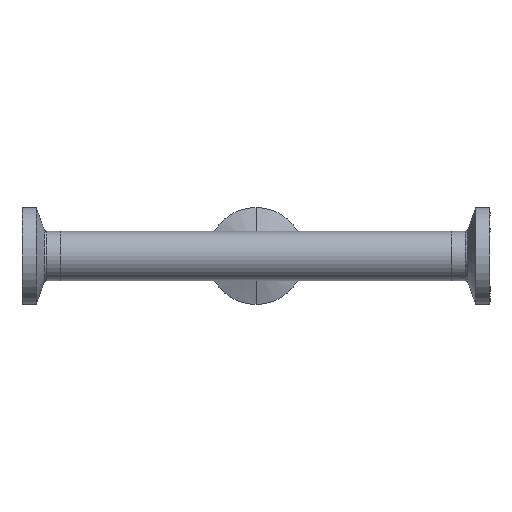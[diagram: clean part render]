
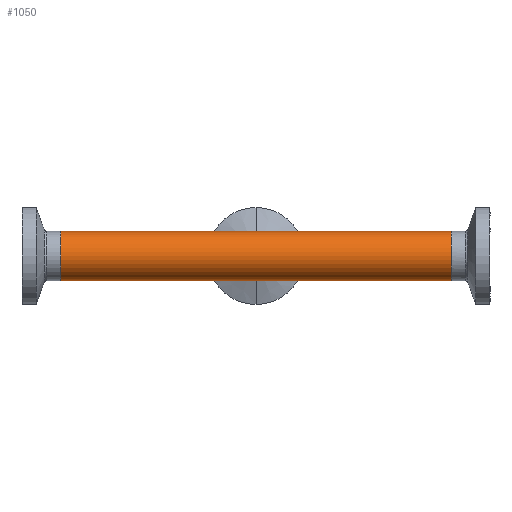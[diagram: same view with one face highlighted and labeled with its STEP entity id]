
A CAD part, front view. The second image highlights one B-rep face of the part: STEP entity #1050.
In plain terms, the highlighted cylindrical face has radius 6.35 mm (diameter 12.7 mm), a partial arc.
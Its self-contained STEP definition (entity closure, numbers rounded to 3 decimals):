
#63 = DIRECTION ( 'NONE',  ( 0., 0., 1. ) ) ;
#70 = DIRECTION ( 'NONE',  ( 0., 0., 1. ) ) ;
#138 = CIRCLE ( 'NONE', #469, 6.35 ) ;
#170 = CARTESIAN_POINT ( 'NONE',  ( -50.3, 0., -6.35 ) ) ;
#302 = VERTEX_POINT ( 'NONE', #1778 ) ;
#372 = LINE ( 'NONE', #1921, #2581 ) ;
#391 = VECTOR ( 'NONE', #2603, 1000. ) ;
#395 = AXIS2_PLACEMENT_3D ( 'NONE', #1675, #1258, #70 ) ;
#405 = CARTESIAN_POINT ( 'NONE',  ( 50.3, 0., 6.35 ) ) ;
#469 = AXIS2_PLACEMENT_3D ( 'NONE', #1842, #2572, #63 ) ;
#475 = EDGE_CURVE ( 'NONE', #302, #604, #372, .T. ) ;
#528 = AXIS2_PLACEMENT_3D ( 'NONE', #1822, #1952, #1962 ) ;
#536 = ORIENTED_EDGE ( 'NONE', *, *, #1700, .T. ) ;
#604 = VERTEX_POINT ( 'NONE', #170 ) ;
#671 = ORIENTED_EDGE ( 'NONE', *, *, #475, .F. ) ;
#744 = VERTEX_POINT ( 'NONE', #1532 ) ;
#980 = CIRCLE ( 'NONE', #528, 6.35 ) ;
#983 = LINE ( 'NONE', #2193, #391 ) ;
#1018 = EDGE_CURVE ( 'NONE', #1165, #744, #983, .T. ) ;
#1050 = ADVANCED_FACE ( 'NONE', ( #1539 ), #1963, .T. ) ;
#1165 = VERTEX_POINT ( 'NONE', #405 ) ;
#1258 = DIRECTION ( 'NONE',  ( -1., 0., 0. ) ) ;
#1532 = CARTESIAN_POINT ( 'NONE',  ( -50.3, 0., 6.35 ) ) ;
#1539 = FACE_OUTER_BOUND ( 'NONE', #2677, .T. ) ;
#1609 = EDGE_CURVE ( 'NONE', #302, #1165, #980, .T. ) ;
#1675 = CARTESIAN_POINT ( 'NONE',  ( 68.261, 0., 0. ) ) ;
#1700 = EDGE_CURVE ( 'NONE', #744, #604, #138, .T. ) ;
#1778 = CARTESIAN_POINT ( 'NONE',  ( 50.3, 0., -6.35 ) ) ;
#1822 = CARTESIAN_POINT ( 'NONE',  ( 50.3, 0., 0. ) ) ;
#1842 = CARTESIAN_POINT ( 'NONE',  ( -50.3, 0., 0. ) ) ;
#1921 = CARTESIAN_POINT ( 'NONE',  ( 68.261, 0., -6.35 ) ) ;
#1952 = DIRECTION ( 'NONE',  ( -1., 0., 0. ) ) ;
#1962 = DIRECTION ( 'NONE',  ( 0., 0., 1. ) ) ;
#1963 = CYLINDRICAL_SURFACE ( 'NONE', #395, 6.35 ) ;
#2193 = CARTESIAN_POINT ( 'NONE',  ( 68.261, 0., 6.35 ) ) ;
#2363 = ORIENTED_EDGE ( 'NONE', *, *, #1018, .T. ) ;
#2560 = ORIENTED_EDGE ( 'NONE', *, *, #1609, .T. ) ;
#2572 = DIRECTION ( 'NONE',  ( 1., 0., 0. ) ) ;
#2581 = VECTOR ( 'NONE', #2652, 1000. ) ;
#2603 = DIRECTION ( 'NONE',  ( -1., 0., 0. ) ) ;
#2652 = DIRECTION ( 'NONE',  ( -1., 0., 0. ) ) ;
#2677 = EDGE_LOOP ( 'NONE', ( #671, #2560, #2363, #536 ) ) ;
